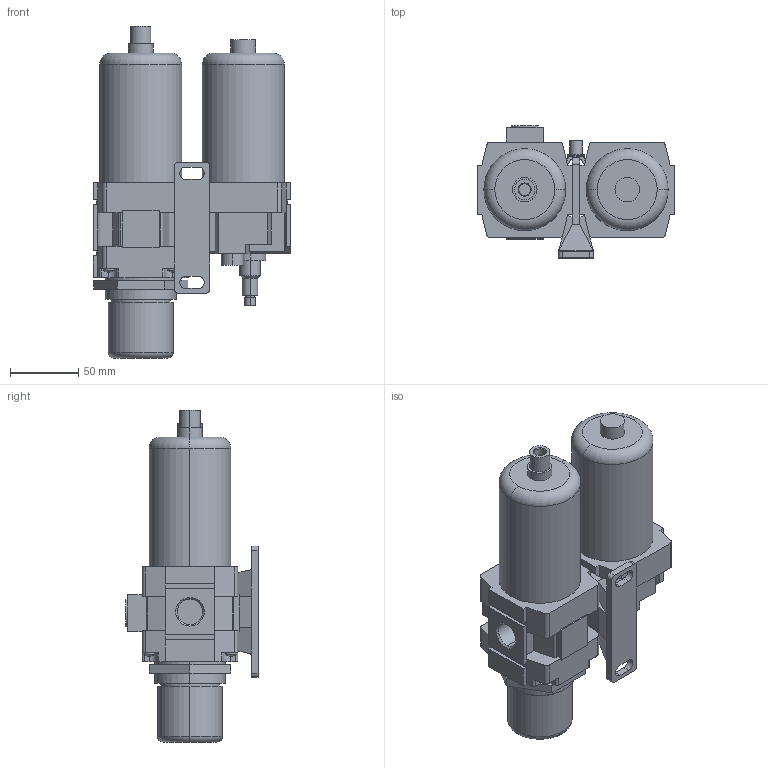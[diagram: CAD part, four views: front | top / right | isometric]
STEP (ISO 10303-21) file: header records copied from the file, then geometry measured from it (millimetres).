
FILE_DESCRIPTION (( 'STEP AP203' ), '1' );
FILE_NAME ('FRL400-04E-D.STEP', '2021-06-30T20:13:50', ( '' ), ( '' ), 'SwSTEP 2.0', 'SolidWorks 2019', '' );
FILE_SCHEMA (( 'CONFIG_CONTROL_DESIGN' ));
Length unit declared in the file: millimetre
Products named in the file (4): ST-400; L400-04; FR400-04E-D; FRL400-04E-D
Assembly tree (3 placements, depth 2):
  FRL400-04E-D
    FR400-04E-D
    ST-400
    L400-04
Bounding box: 145.2 x 97 x 243.5 mm (x, y, z)
Volume: 1168922.3 mm3; surface area: 142058.2 mm2
Topology: 12 solids, 12 shells, 547 faces, 1374 edges, 894 vertices
Faces by surface type: plane 367, cylinder 136, cone 30, sphere 8, torus 6
Entity records: 16716 total; most frequent: DIRECTION 2860, CARTESIAN_POINT 2833, ORIENTED_EDGE 2748, EDGE_CURVE 1374, LINE 986, VECTOR 986, AXIS2_PLACEMENT_3D 937, VERTEX_POINT 894
